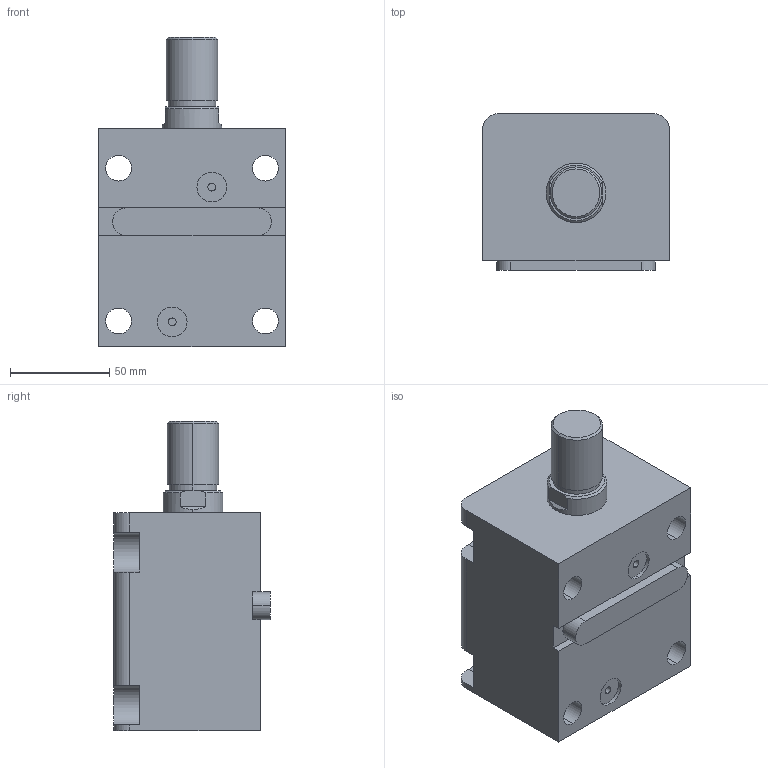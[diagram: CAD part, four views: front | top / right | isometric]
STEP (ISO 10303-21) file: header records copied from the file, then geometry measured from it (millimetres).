
FILE_DESCRIPTION (( 'STEP AP203' ), '1' );
FILE_NAME ('HTB-LAM50-50W.STEP', '2023-03-20T00:55:54', ( '微软用户' ), ( '微软中国' ), 'SwSTEP 2.0', 'SolidWorks 2012', '' );
FILE_SCHEMA (( 'CONFIG_CONTROL_DESIGN' ));
Length unit declared in the file: millimetre
Products named in the file (4): HTB-LAM50-50W; HTB-LWM50-瑩; HTB-LAM50-50W活塞杆; HTB-LAM50-50掛极
Assembly tree (3 placements, depth 2):
  HTB-LAM50-50W
    HTB-LAM50-50掛极
    HTB-LAM50-50W活塞杆
    HTB-LWM50-瑩
Bounding box: 94 x 79 x 156 mm (x, y, z)
Volume: 678601.7 mm3; surface area: 100390.9 mm2
Topology: 3 solids, 3 shells, 90 faces, 219 edges, 144 vertices
Faces by surface type: cylinder 41, plane 41, cone 4, torus 4
Entity records: 3107 total; most frequent: DIRECTION 497, CARTESIAN_POINT 487, ORIENTED_EDGE 438, EDGE_CURVE 219, AXIS2_PLACEMENT_3D 190, VERTEX_POINT 144, VECTOR 117, LINE 117
